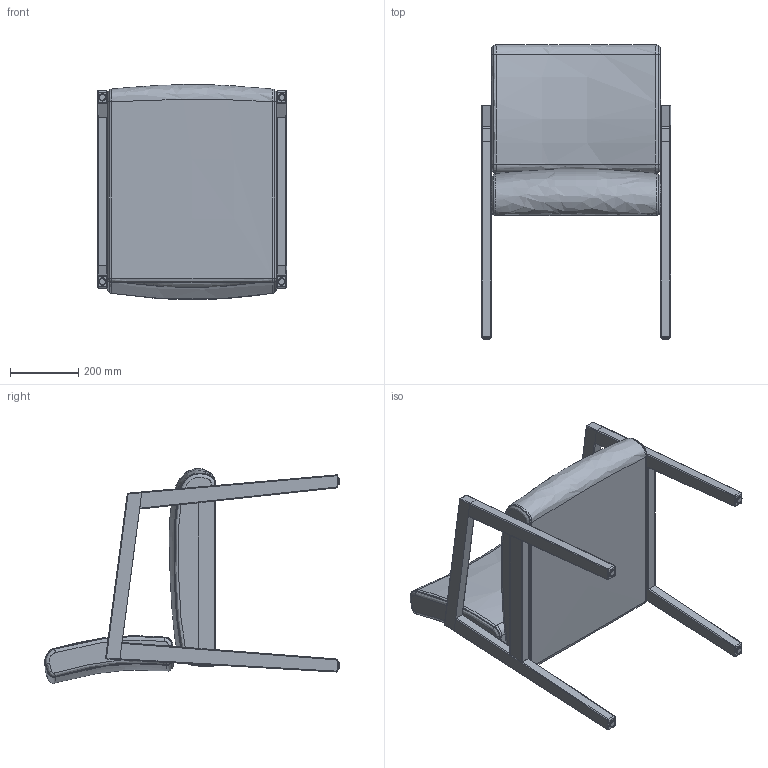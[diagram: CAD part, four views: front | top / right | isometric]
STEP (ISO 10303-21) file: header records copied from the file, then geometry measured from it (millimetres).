
FILE_DESCRIPTION(/* description */ (''),/* implementation_level */ '2;1');
FILE_NAME(/* name */ 'Geo 100.step',/* time_stamp */ '2026-03-20T13:52:30-07:00',/* author */ (''),/* organization */ (''),/* preprocessor_version */ 'ST-DEVELOPER v20.1',/* originating_system */ 'Autodesk Translation Framework v14.24.0.0',/* authorisation */ '');
FILE_SCHEMA (('AUTOMOTIVE_DESIGN { 1 0 10303 214 3 1 1 }'));
Length unit declared in the file: inch
Products named in the file (1): Geo 100
Bounding box: 553.72 x 862.09 x 630.01 mm (x, y, z)
Volume: 54405055.4 mm3; surface area: 2238007.5 mm2
Topology: 18 solids, 18 shells, 331 faces, 766 edges, 467 vertices
Faces by surface type: bspline 133, cylinder 78, plane 68, torus 44, sphere 4, cone 4
Entity records: 19071 total; most frequent: CARTESIAN_POINT 12148, ORIENTED_EDGE 1524, DIRECTION 1282, EDGE_CURVE 762, AXIS2_PLACEMENT_3D 546, VERTEX_POINT 467, FACE_OUTER_BOUND 331, EDGE_LOOP 331
